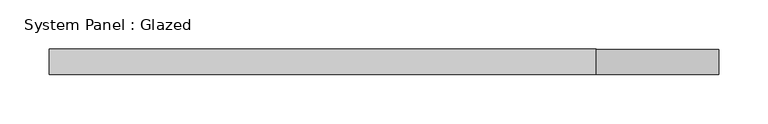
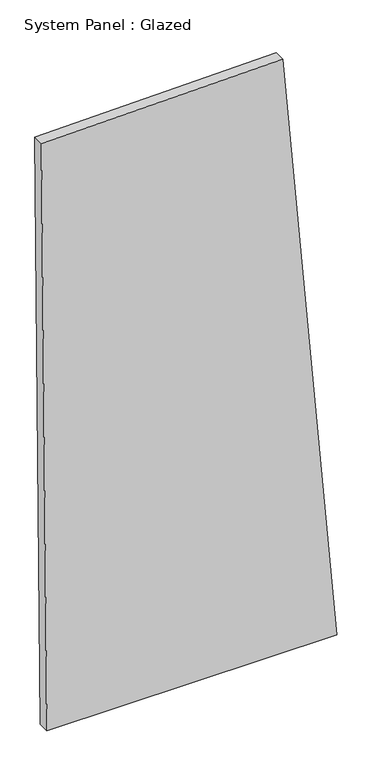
"""IFC4 building model written with IfcOpenShell, lengths in millimetres: plate geometry, System Panel : Glazed."""

import ifcopenshell
import ifcopenshell.guid

model = None  # the IFC model being written
_history = None  # IfcOwnerHistory: only IFC2X3 demands one
_inside = {}  # id of a spatial element -> (the spatial element, [elements in it])
_under = {}  # id of a project, library or spatial element -> (it, [spatial elements below it])
_declared = {}  # id of a project -> (the project, [libraries it declares])
_typed = {}  # id of a type object -> (the type object, [elements of that type])
_made_of = {}  # id of a material, layer set ... -> (it, [elements and type objects made of it])


def new_model(schema):
    """Start an empty IFC model of exactly this schema.

    Asked for "IFC4X3", IfcOpenShell would pick the latest addendum, in which some entities
    have other attributes; the version numbers below select the first issue.
    IFC2X3 requires an IfcOwnerHistory on every rooted entity: one is made here for all.
    """
    global model, _history
    if schema == "IFC4X3":
        model = ifcopenshell.file(schema_version=(4, 3, 0, 0))
    else:
        model = ifcopenshell.file(schema=schema)
    _inside.clear()
    _under.clear()
    _declared.clear()
    _typed.clear()
    _made_of.clear()
    _history = None
    if model.schema == "IFC2X3":
        org = make("IfcOrganization", Name="unknown")
        user = make(
            "IfcPersonAndOrganization",
            ThePerson=make("IfcPerson", FamilyName="unknown"),
            TheOrganization=org,
        )
        app = make(
            "IfcApplication",
            ApplicationDeveloper=org,
            Version="unknown",
            ApplicationFullName="unknown",
            ApplicationIdentifier="unknown",
        )
        _history = make(
            "IfcOwnerHistory",
            OwningUser=user,
            OwningApplication=app,
            ChangeAction="ADDED",
            CreationDate=0,
        )
    return model


def make(cls, **values):
    """One entity of the class cls with the attributes given. An attribute that is None is left unset."""
    return model.create_entity(
        cls, **{name: value for name, value in values.items() if value is not None}
    )


def rooted(cls, **values):
    """An entity with a GlobalId (a new one), such as an element, a storey or a relation."""
    return make(cls, GlobalId=ifcopenshell.guid.new(), OwnerHistory=_history, **values)


def si_unit(unit_type, name, prefix=None):
    """IfcSIUnit, for example si_unit("LENGTHUNIT", "METRE", prefix="MILLI")."""
    return make("IfcSIUnit", UnitType=unit_type, Prefix=prefix, Name=name)


def assignment(units):
    """IfcUnitAssignment: the units of a project."""
    return None if units is None else make("IfcUnitAssignment", Units=units)


def point(xyz):
    """IfcCartesianPoint."""
    return None if xyz is None else make("IfcCartesianPoint", Coordinates=xyz)


def direction(xyz):
    """IfcDirection."""
    return None if xyz is None else make("IfcDirection", DirectionRatios=xyz)


def frame(location, z_axis=None, x_axis=None):
    """IfcAxis2Placement3D, a coordinate frame: its origin and axes. An axis left out is left unset."""
    return make(
        "IfcAxis2Placement3D",
        Location=point(location),
        Axis=direction(z_axis),
        RefDirection=direction(x_axis),
    )


def origin():
    """The frame at (0, 0, 0) with its axes left unset."""
    return frame((0.0, 0.0, 0.0))


def place(relative_to, where):
    """IfcLocalPlacement: puts the frame where relative to a parent placement (None: the world)."""
    return make(
        "IfcLocalPlacement", PlacementRelTo=relative_to, RelativePlacement=where
    )


def context(
    kind, dimensions, precision=None, world=None, true_north=None, identifier=None
):
    """IfcGeometricRepresentationContext, for example the 3D "Model" context."""
    return make(
        "IfcGeometricRepresentationContext",
        ContextIdentifier=identifier,
        ContextType=kind,
        CoordinateSpaceDimension=dimensions,
        Precision=precision,
        WorldCoordinateSystem=world,
        TrueNorth=true_north,
    )


def project(units=None, contexts=None):
    """IfcProject with its units and contexts."""
    return rooted(
        "IfcProject",
        Name="project",
        RepresentationContexts=contexts,
        UnitsInContext=assignment(units),
    )


def spatial(cls, under=None, at=None, **own):
    """A site, building, storey or space (cls), placed at a placement, below another one or the project."""
    s = rooted(cls, ObjectPlacement=at, **own)
    if under is not None:
        _under.setdefault(under.id(), (under, []))[1].append(s)
    return s


def polyline(points):
    """IfcPolyline through the points."""
    return make("IfcPolyline", Points=[point(p) for p in points])


def outline(outer, holes=None, kind="AREA"):
    """IfcArbitraryClosedProfileDef: a profile drawn as a closed curve; with holes, ...WithVoids."""
    if holes is None:
        return make("IfcArbitraryClosedProfileDef", ProfileType=kind, OuterCurve=outer)
    return make(
        "IfcArbitraryProfileDefWithVoids",
        ProfileType=kind,
        OuterCurve=outer,
        InnerCurves=holes,
    )


def extrude(swept, where, along, depth):
    """IfcExtrudedAreaSolid: the profile swept, set in the frame where, extruded along a direction by depth."""
    return make(
        "IfcExtrudedAreaSolid",
        SweptArea=swept,
        Position=where,
        ExtrudedDirection=direction(along),
        Depth=depth,
    )


def shape(context_of_items, identifier, shape_type, items):
    """IfcShapeRepresentation: the items that make up one representation, for example the "Body"."""
    return make(
        "IfcShapeRepresentation",
        ContextOfItems=context_of_items,
        RepresentationIdentifier=identifier,
        RepresentationType=shape_type,
        Items=items,
    )


def source(mapping_origin, context_of_items, identifier, shape_type, items):
    """IfcRepresentationMap: a shape defined once, which mapped items show again and again."""
    return make(
        "IfcRepresentationMap",
        MappingOrigin=mapping_origin,
        MappedRepresentation=shape(context_of_items, identifier, shape_type, items),
    )


def transform(
    local_origin,
    x_axis=None,
    y_axis=None,
    z_axis=None,
    scale=None,
    scale2=None,
    scale3=None,
    uniform=True,
):
    """IfcCartesianTransformationOperator3D, or its non-uniform kind. x_axis, y_axis, z_axis: its Axis1, 2, 3."""
    if uniform:
        return make(
            "IfcCartesianTransformationOperator3D",
            Axis1=direction(x_axis),
            Axis2=direction(y_axis),
            LocalOrigin=point(local_origin),
            Scale=scale,
            Axis3=direction(z_axis),
        )
    return make(
        "IfcCartesianTransformationOperator3DnonUniform",
        Axis1=direction(x_axis),
        Axis2=direction(y_axis),
        LocalOrigin=point(local_origin),
        Scale=scale,
        Axis3=direction(z_axis),
        Scale2=scale2,
        Scale3=scale3,
    )


def mapped(mapping_source, mapping_target):
    """IfcMappedItem: shows the shape of a source again, moved by a transform."""
    return make(
        "IfcMappedItem", MappingSource=mapping_source, MappingTarget=mapping_target
    )


def made_of(thing, what):
    """Note that an element or type object is made of a material, layer set ...; save() writes the relation."""
    if what is not None:
        _made_of.setdefault(what.id(), (what, []))[1].append(thing)
    return thing


def element(
    cls,
    number,
    at=None,
    inside=None,
    cuts=None,
    type_object=None,
    material=None,
    context=None,
    identifier="Body",
    shape_type=None,
    held_by="IfcProductDefinitionShape",
    body=None,
    shapes=None,
    **own,
):
    """One element of the class cls, such as IfcWall. Its Tag is "e" and its number.

    at: its placement. inside: the storey or other place that contains it. cuts: it is an
    opening in that element (IfcRelVoidsElement). A single representation is given by context,
    identifier, shape_type and body (its items); several are given by shapes. held_by: the class
    of the entity that holds the representations. save() writes the other relations.
    """
    e = rooted(cls, Tag="e%d" % number, ObjectPlacement=at, **own)
    if body is not None:
        shapes = [shape(context, identifier, shape_type, body)]
    if shapes is not None:
        e.Representation = make(held_by, Representations=shapes)
    if inside is not None:
        _inside.setdefault(inside.id(), (inside, []))[1].append(e)
    if cuts is not None:
        rooted(
            "IfcRelVoidsElement", RelatingBuildingElement=cuts, RelatedOpeningElement=e
        )
    if type_object is not None:
        _typed.setdefault(type_object.id(), (type_object, []))[1].append(e)
    return made_of(e, material)


def aggregate(whole, parts):
    """IfcRelAggregates: a whole, such as a stair, and the parts it consists of."""
    return rooted("IfcRelAggregates", RelatingObject=whole, RelatedObjects=parts)


def save(model, path):
    """Write the relations noted so far, then the file.

    IfcRelAggregates (storeys below a building ...), IfcRelContainedInSpatialStructure (elements
    in a storey), IfcRelDefinesByType, IfcRelAssociatesMaterial and IfcRelDeclares: one each for
    every whole, place, type object, material and project.
    """
    for whole, parts in _under.values():
        aggregate(whole, parts)
    for where, things in _inside.values():
        rooted(
            "IfcRelContainedInSpatialStructure",
            RelatedElements=things,
            RelatingStructure=where,
        )
    for kind, things in _typed.values():
        rooted("IfcRelDefinesByType", RelatedObjects=things, RelatingType=kind)
    for what, things in _made_of.values():
        rooted("IfcRelAssociatesMaterial", RelatedObjects=things, RelatingMaterial=what)
    for by, libraries in _declared.values():
        rooted("IfcRelDeclares", RelatingContext=by, RelatedDefinitions=libraries)
    model.write(path)


def system_panel_glazed_33f4d639(model_context):
    return source(origin(), model_context, "Body", "SweptSolid", [
        extrude(outline(polyline([(0.0, -325.3566085), (0.0, 338.0546087), (1437.2665686, 214.5267348), (1426.5281708, -338.0546087), (0.0, -325.3566085)])), frame((0.0, -44.45, 0.0), z_axis=(0.0, 1.0, 0.0), x_axis=(0.0, 0.0, 1.0)), (0.0, 0.0, 1.0), 25.4),
    ])


if __name__ == "__main__":
    model = new_model("IFC4")
    model_context = context("Model", 3, world=origin())
    ifc_project = project(units=[si_unit("LENGTHUNIT", "METRE", prefix="MILLI")], contexts=[model_context])
    site = spatial("IfcSite", under=ifc_project)
    building = spatial("IfcBuilding", under=site)
    placement = place(None, origin())
    system_panel_glazed_shape = system_panel_glazed_33f4d639(model_context)
    element("IfcPlate", 1, ObjectType="System Panel : Glazed", at=placement, inside=building, context=model_context, shape_type="MappedRepresentation", body=[
        mapped(system_panel_glazed_shape, transform((0.0, 0.0, 0.0), x_axis=(1.0, 0.0, 0.0), y_axis=(0.0, 1.0, 0.0), z_axis=(0.0, 0.0, 1.0))),
    ])
    save(model, "model.ifc")
